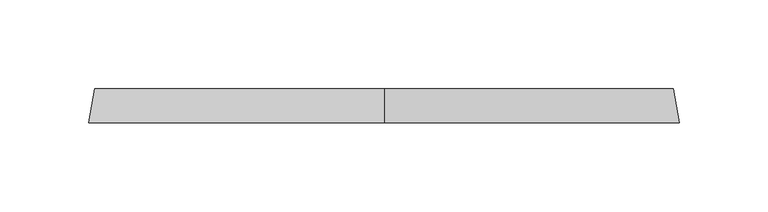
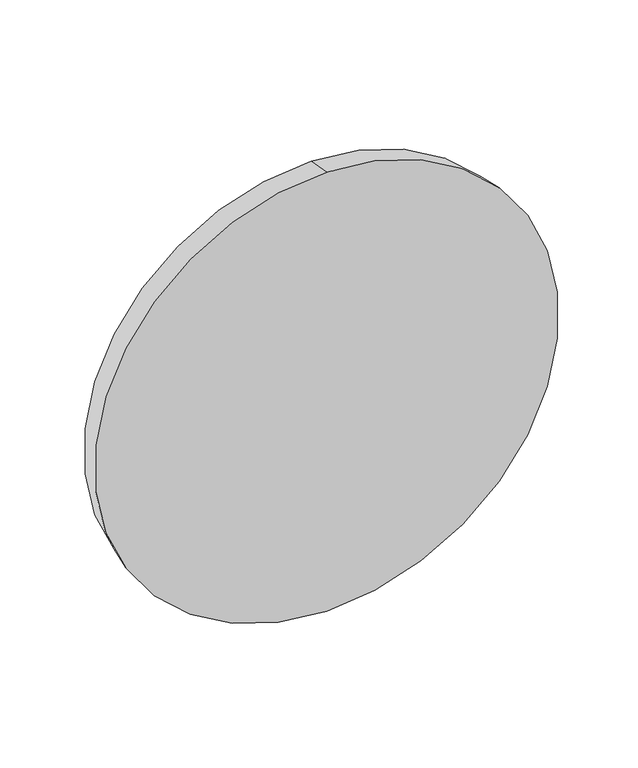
"""IFC4 building model written with IfcOpenShell, lengths in millimetres: proxy geometry, GRADIENT^TABLE 2_RADIUS BASE-BASE TOP."""

from ifc_helpers import new_model, si_unit, frame, origin, place, context, project, spatial, polyline, circle_curve, source, transform, mapped, element, save
from ifc_brep_helpers import plane_surface, revolved_surface, advanced_brep


def generic_models_c1717a22(model_context):
    return source(origin(), model_context, "Body", "AdvancedBrep", [
        advanced_brep(
        [(0.0, 673.1, 166.7704323), (0.0, 692.15, 163.4114033), (0.0, 692.15, -163.4114033), (0.0, 673.1, -166.7704323)],
        [
            (0, 1),
            (1, 2, circle_curve(frame((0.0, 692.15, 0.0), z_axis=(0.0, -1.0, 0.0), x_axis=(0.0, 0.0, -1.0)), 163.4114033)),
            (2, 3),
            (3, 0, circle_curve(frame((0.0, 673.1, 0.0), z_axis=(0.0, 1.0, 0.0), x_axis=(0.0, 0.0, -1.0)), 166.7704323)),
            (1, 2, circle_curve(frame((0.0, 692.15, 0.0), z_axis=(0.0, 1.0, 0.0), x_axis=(0.0, 0.0, 1.0)), 163.4114033)),
            (3, 0, circle_curve(frame((0.0, 673.1, 0.0), z_axis=(0.0, -1.0, 0.0), x_axis=(0.0, 0.0, 1.0)), 166.7704323)),
        ],
        [
            revolved_surface(polyline([(0.0, 692.15, 163.41140331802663), (0.0, 673.1, 166.7704323)]), (0.0, 1618.9021209, 0.0), (0.0, -1.0, 0.0)),
            plane_surface(frame((0.0, 692.15, 0.0), z_axis=(0.0, 1.0, 0.0), x_axis=(0.0, 0.0, 1.0))),
            plane_surface(frame((0.0, 673.1, 166.7704323), z_axis=(0.0, -1.0, 0.0), x_axis=(0.0, 0.0, -1.0))),
        ],
        [
            (0, [[1, 2, 3, 4]]),
            (1, [[5, -2]]),
            (2, [[6, -4]]),
            (0, [[-1, -6, -3, -5]]),
        ],
    ),
    ])


if __name__ == "__main__":
    model = new_model("IFC4")
    model_context = context("Model", 3, world=origin())
    ifc_project = project(units=[si_unit("LENGTHUNIT", "METRE", prefix="MILLI")], contexts=[model_context])
    site = spatial("IfcSite", under=ifc_project)
    building = spatial("IfcBuilding", under=site)
    placement = place(None, origin())
    generic_models_shape = generic_models_c1717a22(model_context)
    element("IfcBuildingElementProxy", 1, Name="GRADIENT^TABLE 2_RADIUS BASE-BASE TOP", ObjectType="GRADIENT^TABLE 2_RADIUS BASE-BASE TOP", at=placement, inside=building, context=model_context, shape_type="MappedRepresentation", body=[
        mapped(generic_models_shape, transform((0.0, 0.0, 0.0), x_axis=(1.0, 0.0, 0.0), y_axis=(0.0, 1.0, 0.0), z_axis=(0.0, 0.0, 1.0))),
    ])
    save(model, "model.ifc")
